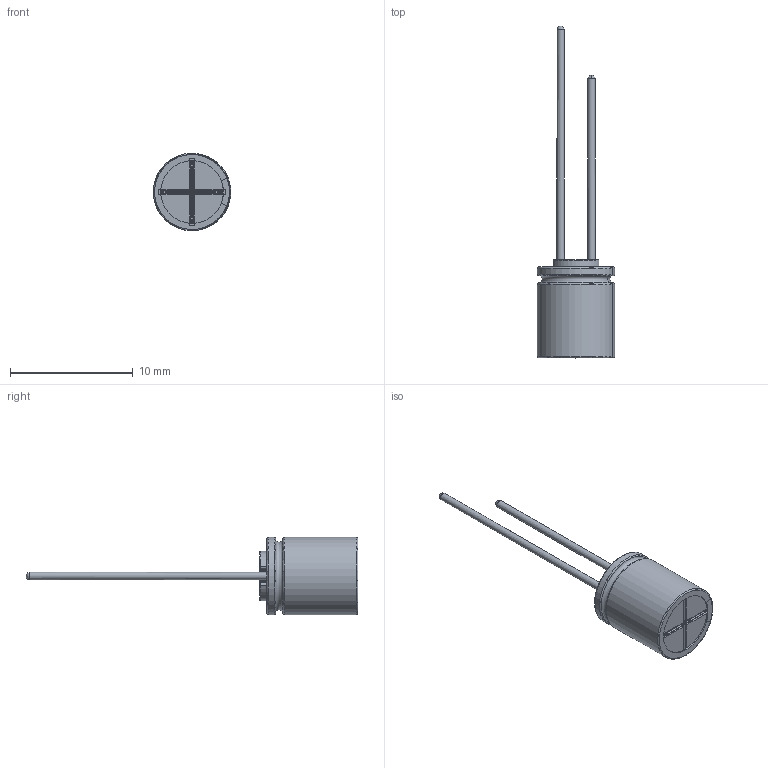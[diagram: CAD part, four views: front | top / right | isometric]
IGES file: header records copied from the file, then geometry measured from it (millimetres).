
Start section: JAMA-IS VERSION  1.0
Bounding box: 6.29 x 27 x 6.3 mm (x, y, z)
Surface area: 626.4 mm2 (no closed solid volume)
Topology: 0 solids, 0 shells, 120 faces, 1287 edges, 1276 vertices
Faces by surface type: bspline 120
